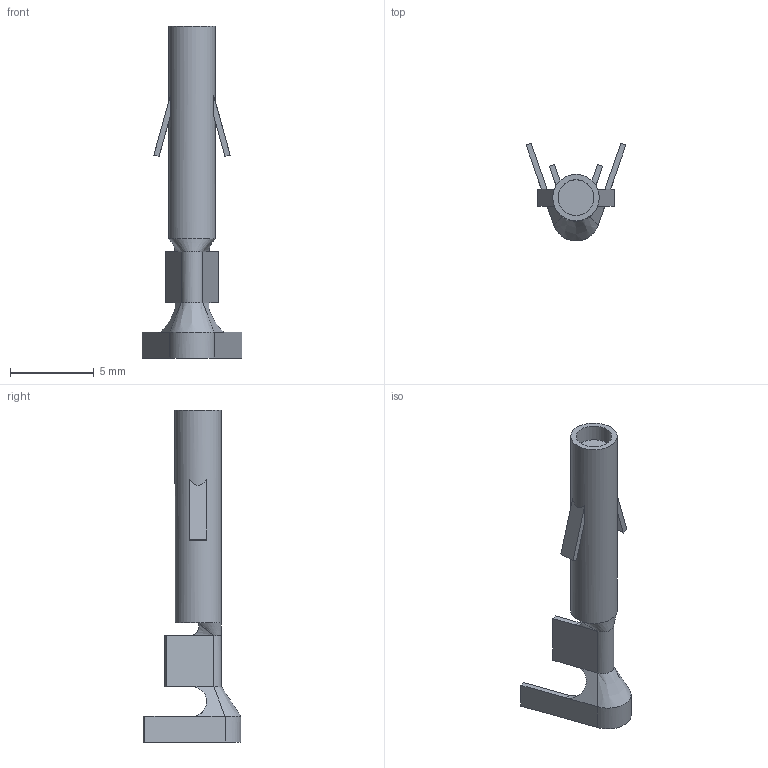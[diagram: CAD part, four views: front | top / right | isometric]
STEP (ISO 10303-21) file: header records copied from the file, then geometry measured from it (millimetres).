
FILE_DESCRIPTION (( 'STEP AP214' ), '1' );
FILE_NAME ('22497r1.STEP', '2011-07-06T16:15:23', ( 'Vicor User' ), ( 'Microsoft' ), 'SwSTEP 2.0', 'SolidWorks 2010', '' );
FILE_SCHEMA (( 'AUTOMOTIVE_DESIGN' ));
Length unit declared in the file: inch
Products named in the file (1): 22497r1
Bounding box: 5.96 x 5.84 x 19.81 mm (x, y, z)
Volume: 87.9 mm3; surface area: 269 mm2
Topology: 1 solids, 1 shells, 58 faces, 140 edges, 86 vertices
Faces by surface type: plane 35, bspline 12, cylinder 11
Full cylindrical faces by diameter (mm): 2.129 x2, 2.769 x1
Entity records: 2154 total; most frequent: CARTESIAN_POINT 909, ORIENTED_EDGE 264, DIRECTION 204, EDGE_CURVE 132, VECTOR 90, LINE 90, VERTEX_POINT 82, EDGE_LOOP 64
